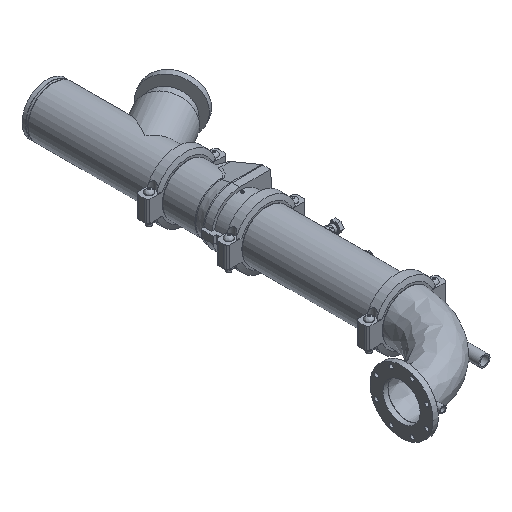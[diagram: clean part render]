
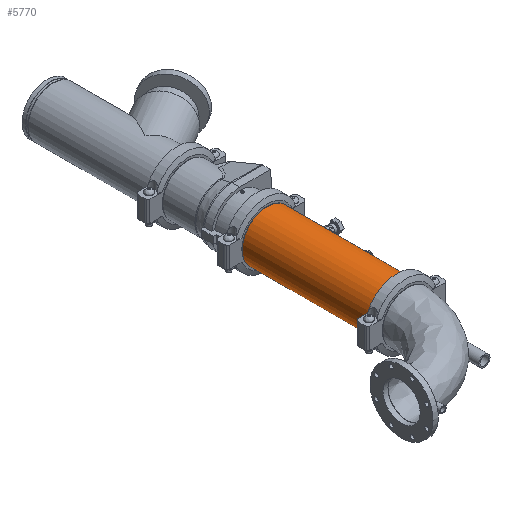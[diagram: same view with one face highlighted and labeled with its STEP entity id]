
A CAD part, isometric view. The second image highlights one B-rep face of the part: STEP entity #5770.
In plain terms, the highlighted cylindrical face has radius 136.525 mm (diameter 273.05 mm), a full revolution.
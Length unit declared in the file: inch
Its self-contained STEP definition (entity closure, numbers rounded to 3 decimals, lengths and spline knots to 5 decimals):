
#156=LINE('',#8778,#570);
#570=VECTOR('',#6994,5.375);
#984=CYLINDRICAL_SURFACE('',#6286,5.375);
#1178=FACE_OUTER_BOUND('',#1505,.T.);
#1505=EDGE_LOOP('',(#3631,#3632,#3633,#3634,#3635,#3636));
#1915=CIRCLE('',#6284,5.375);
#1916=CIRCLE('',#6285,5.375);
#1917=CIRCLE('',#6287,5.375);
#1918=CIRCLE('',#6288,5.375);
#2252=VERTEX_POINT('',#8769);
#2253=VERTEX_POINT('',#8770);
#2254=VERTEX_POINT('',#8774);
#2255=VERTEX_POINT('',#8775);
#2812=EDGE_CURVE('',#2252,#2253,#1915,.T.);
#2813=EDGE_CURVE('',#2253,#2252,#1916,.T.);
#2814=EDGE_CURVE('',#2254,#2255,#1917,.T.);
#2815=EDGE_CURVE('',#2255,#2254,#1918,.T.);
#2816=EDGE_CURVE('',#2255,#2253,#156,.T.);
#3631=ORIENTED_EDGE('',*,*,#2814,.F.);
#3632=ORIENTED_EDGE('',*,*,#2815,.F.);
#3633=ORIENTED_EDGE('',*,*,#2816,.T.);
#3634=ORIENTED_EDGE('',*,*,#2813,.T.);
#3635=ORIENTED_EDGE('',*,*,#2812,.T.);
#3636=ORIENTED_EDGE('',*,*,#2816,.F.);
#5770=ADVANCED_FACE('',(#1178),#984,.T.);
#6284=AXIS2_PLACEMENT_3D('',#8771,#6984,#6985);
#6285=AXIS2_PLACEMENT_3D('',#8772,#6986,#6987);
#6286=AXIS2_PLACEMENT_3D('',#8773,#6988,#6989);
#6287=AXIS2_PLACEMENT_3D('',#8776,#6990,#6991);
#6288=AXIS2_PLACEMENT_3D('',#8777,#6992,#6993);
#6984=DIRECTION('center_axis',(1.,0.,0.));
#6985=DIRECTION('ref_axis',(0.,0.,-1.));
#6986=DIRECTION('center_axis',(1.,0.,0.));
#6987=DIRECTION('ref_axis',(0.,0.,-1.));
#6988=DIRECTION('center_axis',(1.,0.,0.));
#6989=DIRECTION('ref_axis',(0.,1.,0.));
#6990=DIRECTION('center_axis',(1.,0.,0.));
#6991=DIRECTION('ref_axis',(0.,0.,-1.));
#6992=DIRECTION('center_axis',(1.,0.,0.));
#6993=DIRECTION('ref_axis',(0.,0.,-1.));
#6994=DIRECTION('',(-1.,0.,0.));
#8769=CARTESIAN_POINT('',(-13.77725,5.375,0.));
#8770=CARTESIAN_POINT('',(-13.77725,-5.375,0.));
#8771=CARTESIAN_POINT('Origin',(-13.77725,0.,0.));
#8772=CARTESIAN_POINT('Origin',(-13.77725,0.,0.));
#8773=CARTESIAN_POINT('Origin',(0.,0.,0.));
#8774=CARTESIAN_POINT('',(13.77725,5.375,0.));
#8775=CARTESIAN_POINT('',(13.77725,-5.375,0.));
#8776=CARTESIAN_POINT('Origin',(13.77725,0.,0.));
#8777=CARTESIAN_POINT('Origin',(13.77725,0.,0.));
#8778=CARTESIAN_POINT('',(0.,-5.375,0.));
